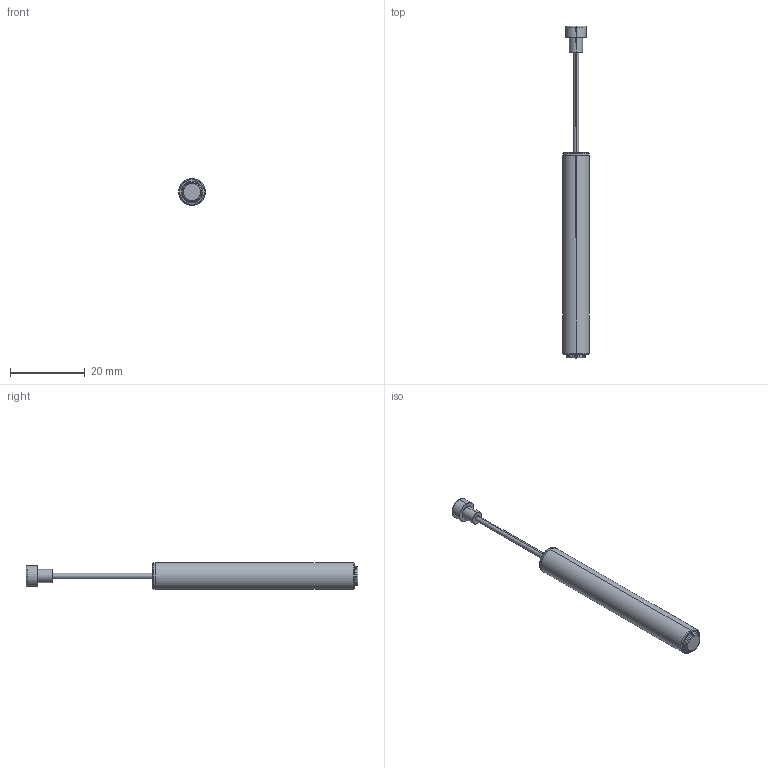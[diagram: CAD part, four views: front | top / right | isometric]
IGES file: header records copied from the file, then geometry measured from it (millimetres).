
Start section: SolidWorks IGES file using analytic representation for surfaces
Bounding box: 7.2 x 89 x 7.2 mm (x, y, z)
Surface area: 1691.8 mm2 (no closed solid volume)
Topology: 0 solids, 0 shells, 29 faces, 440 edges, 440 vertices
Faces by surface type: bspline 17, revolution 12
